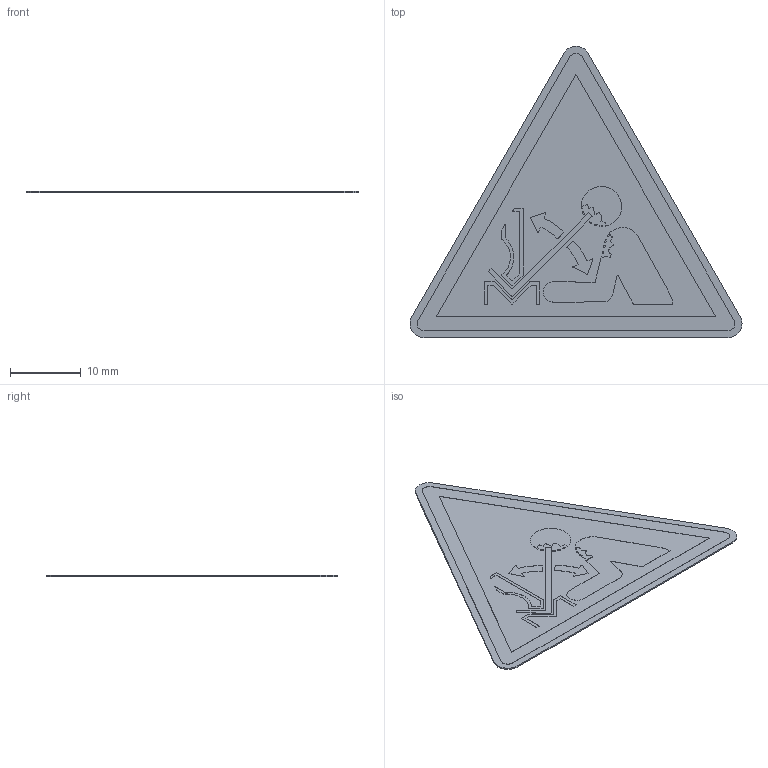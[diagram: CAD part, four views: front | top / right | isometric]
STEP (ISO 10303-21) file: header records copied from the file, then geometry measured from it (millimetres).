
FILE_DESCRIPTION (( 'STEP AP214' ), '1' );
FILE_NAME ('W032_Warnung vor hochschnellendem Werkstück in einer Presse .STEP', '2022-03-03T14:09:08', ( '' ), ( '' ), 'SwSTEP 2.0', 'SolidWorks 2021', '' );
FILE_SCHEMA (( 'AUTOMOTIVE_DESIGN' ));
Length unit declared in the file: millimetre
Products named in the file (1): W032_Warnung vor hochschnellendem Werkstück in einer Presse 
Bounding box: 47.07 x 41.3 x 0.22 mm (x, y, z)
Volume: 221.6 mm3; surface area: 2184.4 mm2
Topology: 1 solids, 1 shells, 274 faces, 765 edges, 510 vertices
Faces by surface type: plane 213, cylinder 61
Entity records: 11680 total; most frequent: CARTESIAN_POINT 1550, ORIENTED_EDGE 1530, DIRECTION 1437, EDGE_CURVE 765, LINE 643, VECTOR 643, VERTEX_POINT 510, AXIS2_PLACEMENT_3D 397
